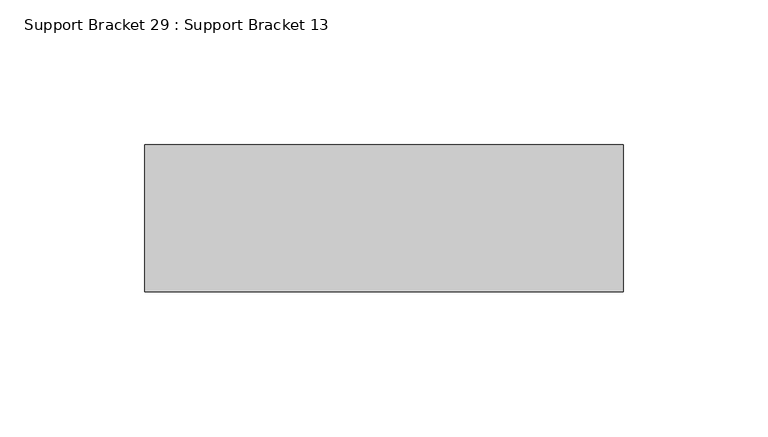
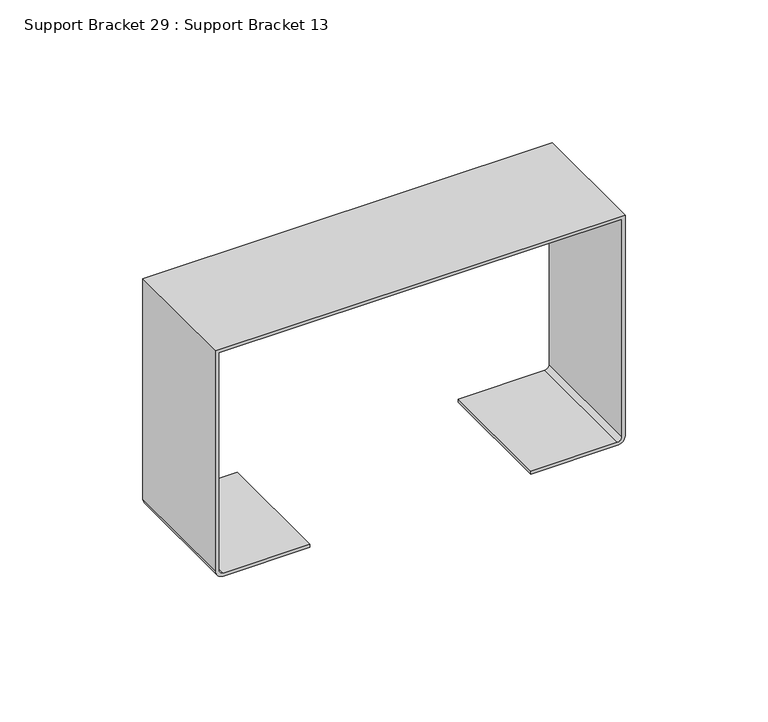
"""IFC4 building model written with IfcOpenShell, lengths in millimetres: proxy geometry, Support Bracket 29 : Support Bracket 13."""

from ifc_helpers import new_model, si_unit, point, frame, frame_2d, origin, place, context, project, spatial, polyline, circle_curve, trimmed, segment, composite_curve, outline, extrude, source, transform, mapped, element, save


def support_bracket_29_support_bracket_13_56b2ad6d(model_context):
    return source(origin(), model_context, "Body", "SweptSolid", [
        extrude(outline(composite_curve([segment(polyline([(920.623, 15857.3938902), (1014.8371563, 15857.3938902), (1014.8371563, 15692.0954527), (920.623, 15692.0954527)]), True, "CONTINUOUS"), segment(trimmed(circle_curve(frame_2d((920.623, 15695.1434527)), 3.048), [point((920.623, 15692.0954527))], [point((917.575, 15695.1434527))], False, "CARTESIAN"), True, "CONTINUOUS"), segment(polyline([(917.575, 15695.1434527), (917.575, 15730.1954527), (918.8648438, 15730.1954527), (918.8648438, 15695.1434527)]), True, "CONTINUOUS"), segment(trimmed(circle_curve(frame_2d((920.623, 15695.1434527)), 1.7581563), [point((918.8648438, 15695.1434527))], [point((920.623, 15693.3852965))], True, "CARTESIAN"), True, "CONTINUOUS"), segment(polyline([(920.623, 15693.3852965), (1013.5473125, 15693.3852965), (1013.5473125, 15856.1040465), (920.623, 15856.1040465)]), True, "CONTINUOUS"), segment(trimmed(circle_curve(frame_2d((920.623, 15854.3458902)), 1.7581563), [point((920.623, 15856.1040465))], [point((918.8648438, 15854.3458902))], True, "CARTESIAN"), True, "CONTINUOUS"), segment(polyline([(918.8648438, 15854.3458902), (918.8648438, 15819.2938902), (917.575, 15819.2938902), (917.575, 15854.3458902)]), True, "CONTINUOUS"), segment(trimmed(circle_curve(frame_2d((920.623, 15854.3458902)), 3.048), [point((917.575, 15854.3458902))], [point((920.623, 15857.3938902))], False, "CARTESIAN"), True, "CONTINUOUS")], self_intersect=False)), frame((0.0, 4636.6254803, 0.0), z_axis=(0.0, 1.0, 0.0), x_axis=(0.0, 0.0, 1.0)), (0.0, 0.0, 1.0), 50.8),
    ])


if __name__ == "__main__":
    model = new_model("IFC4")
    model_context = context("Model", 3, world=origin())
    ifc_project = project(units=[si_unit("LENGTHUNIT", "METRE", prefix="MILLI")], contexts=[model_context])
    site = spatial("IfcSite", under=ifc_project)
    building = spatial("IfcBuilding", under=site)
    placement = place(None, origin())
    support_bracket_29_support_bracket_13_shape = support_bracket_29_support_bracket_13_56b2ad6d(model_context)
    element("IfcBuildingElementProxy", 1, Name="Support Bracket 29 : Support Bracket 13", ObjectType="Support Bracket 29 : Support Bracket 13", at=placement, inside=building, context=model_context, shape_type="MappedRepresentation", body=[
        mapped(support_bracket_29_support_bracket_13_shape, transform((0.0, 0.0, 0.0), x_axis=(1.0, 0.0, 0.0), y_axis=(0.0, 1.0, 0.0), z_axis=(0.0, 0.0, 1.0))),
    ])
    save(model, "model.ifc")
